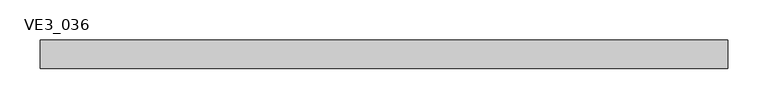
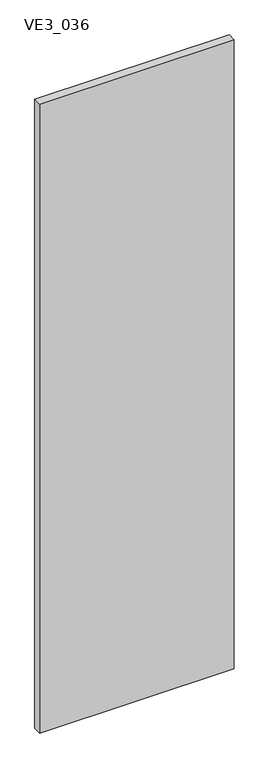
"""IFC4 building model written with IfcOpenShell, lengths in millimetres: plate geometry, TRP_CP_ARC_PF_RE_SE : VE3_036."""

import ifcopenshell
import ifcopenshell.guid

model = None  # the IFC model being written
_history = None  # IfcOwnerHistory: only IFC2X3 demands one
_inside = {}  # id of a spatial element -> (the spatial element, [elements in it])
_under = {}  # id of a project, library or spatial element -> (it, [spatial elements below it])
_declared = {}  # id of a project -> (the project, [libraries it declares])
_typed = {}  # id of a type object -> (the type object, [elements of that type])
_made_of = {}  # id of a material, layer set ... -> (it, [elements and type objects made of it])


def new_model(schema):
    """Start an empty IFC model of exactly this schema.

    Asked for "IFC4X3", IfcOpenShell would pick the latest addendum, in which some entities
    have other attributes; the version numbers below select the first issue.
    IFC2X3 requires an IfcOwnerHistory on every rooted entity: one is made here for all.
    """
    global model, _history
    if schema == "IFC4X3":
        model = ifcopenshell.file(schema_version=(4, 3, 0, 0))
    else:
        model = ifcopenshell.file(schema=schema)
    _inside.clear()
    _under.clear()
    _declared.clear()
    _typed.clear()
    _made_of.clear()
    _history = None
    if model.schema == "IFC2X3":
        org = make("IfcOrganization", Name="unknown")
        user = make(
            "IfcPersonAndOrganization",
            ThePerson=make("IfcPerson", FamilyName="unknown"),
            TheOrganization=org,
        )
        app = make(
            "IfcApplication",
            ApplicationDeveloper=org,
            Version="unknown",
            ApplicationFullName="unknown",
            ApplicationIdentifier="unknown",
        )
        _history = make(
            "IfcOwnerHistory",
            OwningUser=user,
            OwningApplication=app,
            ChangeAction="ADDED",
            CreationDate=0,
        )
    return model


def make(cls, **values):
    """One entity of the class cls with the attributes given. An attribute that is None is left unset."""
    return model.create_entity(
        cls, **{name: value for name, value in values.items() if value is not None}
    )


def rooted(cls, **values):
    """An entity with a GlobalId (a new one), such as an element, a storey or a relation."""
    return make(cls, GlobalId=ifcopenshell.guid.new(), OwnerHistory=_history, **values)


def si_unit(unit_type, name, prefix=None):
    """IfcSIUnit, for example si_unit("LENGTHUNIT", "METRE", prefix="MILLI")."""
    return make("IfcSIUnit", UnitType=unit_type, Prefix=prefix, Name=name)


def assignment(units):
    """IfcUnitAssignment: the units of a project."""
    return None if units is None else make("IfcUnitAssignment", Units=units)


def point(xyz):
    """IfcCartesianPoint."""
    return None if xyz is None else make("IfcCartesianPoint", Coordinates=xyz)


def direction(xyz):
    """IfcDirection."""
    return None if xyz is None else make("IfcDirection", DirectionRatios=xyz)


def frame(location, z_axis=None, x_axis=None):
    """IfcAxis2Placement3D, a coordinate frame: its origin and axes. An axis left out is left unset."""
    return make(
        "IfcAxis2Placement3D",
        Location=point(location),
        Axis=direction(z_axis),
        RefDirection=direction(x_axis),
    )


def origin():
    """The frame at (0, 0, 0) with its axes left unset."""
    return frame((0.0, 0.0, 0.0))


def place(relative_to, where):
    """IfcLocalPlacement: puts the frame where relative to a parent placement (None: the world)."""
    return make(
        "IfcLocalPlacement", PlacementRelTo=relative_to, RelativePlacement=where
    )


def context(
    kind, dimensions, precision=None, world=None, true_north=None, identifier=None
):
    """IfcGeometricRepresentationContext, for example the 3D "Model" context."""
    return make(
        "IfcGeometricRepresentationContext",
        ContextIdentifier=identifier,
        ContextType=kind,
        CoordinateSpaceDimension=dimensions,
        Precision=precision,
        WorldCoordinateSystem=world,
        TrueNorth=true_north,
    )


def project(units=None, contexts=None):
    """IfcProject with its units and contexts."""
    return rooted(
        "IfcProject",
        Name="project",
        RepresentationContexts=contexts,
        UnitsInContext=assignment(units),
    )


def spatial(cls, under=None, at=None, **own):
    """A site, building, storey or space (cls), placed at a placement, below another one or the project."""
    s = rooted(cls, ObjectPlacement=at, **own)
    if under is not None:
        _under.setdefault(under.id(), (under, []))[1].append(s)
    return s


def polyline(points):
    """IfcPolyline through the points."""
    return make("IfcPolyline", Points=[point(p) for p in points])


def outline(outer, holes=None, kind="AREA"):
    """IfcArbitraryClosedProfileDef: a profile drawn as a closed curve; with holes, ...WithVoids."""
    if holes is None:
        return make("IfcArbitraryClosedProfileDef", ProfileType=kind, OuterCurve=outer)
    return make(
        "IfcArbitraryProfileDefWithVoids",
        ProfileType=kind,
        OuterCurve=outer,
        InnerCurves=holes,
    )


def extrude(swept, where, along, depth):
    """IfcExtrudedAreaSolid: the profile swept, set in the frame where, extruded along a direction by depth."""
    return make(
        "IfcExtrudedAreaSolid",
        SweptArea=swept,
        Position=where,
        ExtrudedDirection=direction(along),
        Depth=depth,
    )


def shape(context_of_items, identifier, shape_type, items):
    """IfcShapeRepresentation: the items that make up one representation, for example the "Body"."""
    return make(
        "IfcShapeRepresentation",
        ContextOfItems=context_of_items,
        RepresentationIdentifier=identifier,
        RepresentationType=shape_type,
        Items=items,
    )


def source(mapping_origin, context_of_items, identifier, shape_type, items):
    """IfcRepresentationMap: a shape defined once, which mapped items show again and again."""
    return make(
        "IfcRepresentationMap",
        MappingOrigin=mapping_origin,
        MappedRepresentation=shape(context_of_items, identifier, shape_type, items),
    )


def transform(
    local_origin,
    x_axis=None,
    y_axis=None,
    z_axis=None,
    scale=None,
    scale2=None,
    scale3=None,
    uniform=True,
):
    """IfcCartesianTransformationOperator3D, or its non-uniform kind. x_axis, y_axis, z_axis: its Axis1, 2, 3."""
    if uniform:
        return make(
            "IfcCartesianTransformationOperator3D",
            Axis1=direction(x_axis),
            Axis2=direction(y_axis),
            LocalOrigin=point(local_origin),
            Scale=scale,
            Axis3=direction(z_axis),
        )
    return make(
        "IfcCartesianTransformationOperator3DnonUniform",
        Axis1=direction(x_axis),
        Axis2=direction(y_axis),
        LocalOrigin=point(local_origin),
        Scale=scale,
        Axis3=direction(z_axis),
        Scale2=scale2,
        Scale3=scale3,
    )


def mapped(mapping_source, mapping_target):
    """IfcMappedItem: shows the shape of a source again, moved by a transform."""
    return make(
        "IfcMappedItem", MappingSource=mapping_source, MappingTarget=mapping_target
    )


def made_of(thing, what):
    """Note that an element or type object is made of a material, layer set ...; save() writes the relation."""
    if what is not None:
        _made_of.setdefault(what.id(), (what, []))[1].append(thing)
    return thing


def element(
    cls,
    number,
    at=None,
    inside=None,
    cuts=None,
    type_object=None,
    material=None,
    context=None,
    identifier="Body",
    shape_type=None,
    held_by="IfcProductDefinitionShape",
    body=None,
    shapes=None,
    **own,
):
    """One element of the class cls, such as IfcWall. Its Tag is "e" and its number.

    at: its placement. inside: the storey or other place that contains it. cuts: it is an
    opening in that element (IfcRelVoidsElement). A single representation is given by context,
    identifier, shape_type and body (its items); several are given by shapes. held_by: the class
    of the entity that holds the representations. save() writes the other relations.
    """
    e = rooted(cls, Tag="e%d" % number, ObjectPlacement=at, **own)
    if body is not None:
        shapes = [shape(context, identifier, shape_type, body)]
    if shapes is not None:
        e.Representation = make(held_by, Representations=shapes)
    if inside is not None:
        _inside.setdefault(inside.id(), (inside, []))[1].append(e)
    if cuts is not None:
        rooted(
            "IfcRelVoidsElement", RelatingBuildingElement=cuts, RelatedOpeningElement=e
        )
    if type_object is not None:
        _typed.setdefault(type_object.id(), (type_object, []))[1].append(e)
    return made_of(e, material)


def aggregate(whole, parts):
    """IfcRelAggregates: a whole, such as a stair, and the parts it consists of."""
    return rooted("IfcRelAggregates", RelatingObject=whole, RelatedObjects=parts)


def save(model, path):
    """Write the relations noted so far, then the file.

    IfcRelAggregates (storeys below a building ...), IfcRelContainedInSpatialStructure (elements
    in a storey), IfcRelDefinesByType, IfcRelAssociatesMaterial and IfcRelDeclares: one each for
    every whole, place, type object, material and project.
    """
    for whole, parts in _under.values():
        aggregate(whole, parts)
    for where, things in _inside.values():
        rooted(
            "IfcRelContainedInSpatialStructure",
            RelatedElements=things,
            RelatingStructure=where,
        )
    for kind, things in _typed.values():
        rooted("IfcRelDefinesByType", RelatedObjects=things, RelatingType=kind)
    for what, things in _made_of.values():
        rooted("IfcRelAssociatesMaterial", RelatedObjects=things, RelatingMaterial=what)
    for by, libraries in _declared.values():
        rooted("IfcRelDeclares", RelatingContext=by, RelatedDefinitions=libraries)
    model.write(path)


def ve3_036_4fdc355e(model_context):
    return source(origin(), model_context, "Body", "SweptSolid", [
        extrude(outline(polyline([(429.5169161, 18.0), (429.5169161, -18.0), (-429.5169161, -18.0), (-429.5169161, 18.0), (429.5169161, 18.0)])), frame((0.0, 0.0, -3.1739529), z_axis=(0.0, 0.0, 1.0), x_axis=(1.0, 0.0, 0.0)), (0.0, 0.0, 1.0), 2933.1739529),
    ])


if __name__ == "__main__":
    model = new_model("IFC4")
    model_context = context("Model", 3, world=origin())
    ifc_project = project(units=[si_unit("LENGTHUNIT", "METRE", prefix="MILLI")], contexts=[model_context])
    site = spatial("IfcSite", under=ifc_project)
    building = spatial("IfcBuilding", under=site)
    placement = place(None, origin())
    ve3_036_shape = ve3_036_4fdc355e(model_context)
    element("IfcPlate", 1, ObjectType="TRP_CP_ARC_PF_RE_SE : VE3_036", at=placement, inside=building, context=model_context, shape_type="MappedRepresentation", body=[
        mapped(ve3_036_shape, transform((0.0, 0.0, 0.0), x_axis=(1.0, 0.0, 0.0), y_axis=(0.0, 1.0, 0.0), z_axis=(0.0, 0.0, 1.0))),
    ])
    save(model, "model.ifc")
